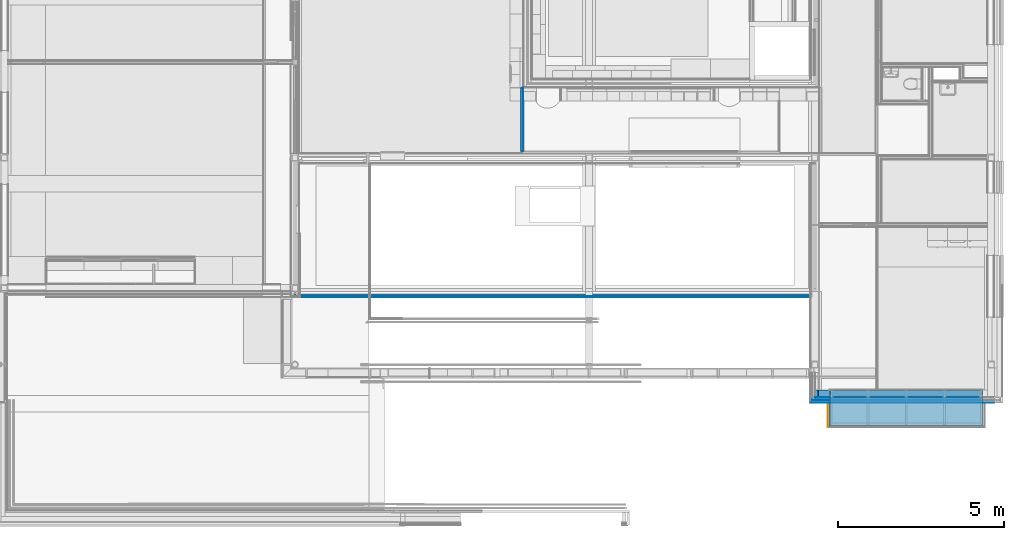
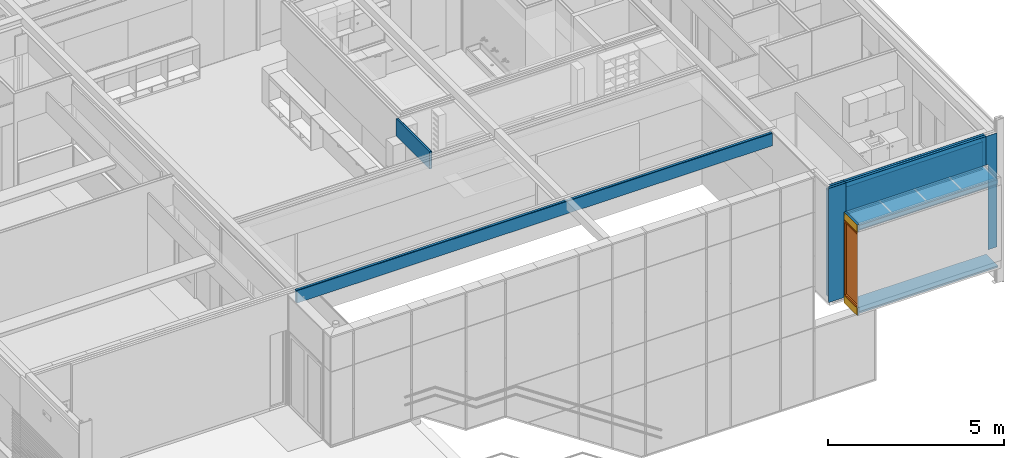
# One storey, part 63 of 137: 26 building element parts, 1 covering, 1 proxy, 2 openings, 9 elements without a shape of their own.
"""IFC2X3 building model written with IfcOpenShell, lengths in millimetres."""

from ifc_helpers import new_model, entity, si_unit, converted_unit, derived_unit, money_unit, direction, frame, origin_with_axes, place, context, subcontext, project, spatial, open_shell, faceted_brep, surface_model, material, type_object, element, fill, aggregate, save


model = new_model("IFC2X3")

# Units and contexts
model_context = context("Model", 3, precision=0.01, world=origin_with_axes(), true_north=direction((0.0, 1.0)))
body_context = subcontext(model_context, "Body", "Model", "MODEL_VIEW")
ifc_project = project(units=[si_unit("LENGTHUNIT", "METRE", prefix="MILLI"), si_unit("AREAUNIT", "SQUARE_METRE"), si_unit("VOLUMEUNIT", "CUBIC_METRE"), converted_unit("PLANEANGLEUNIT", "DEGREE", entity("IfcPlaneAngleMeasure", 0.0174532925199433), si_unit("PLANEANGLEUNIT", "RADIAN"), dimensions=[0, 0, 0, 0, 0, 0, 0]), money_unit("EUR"), converted_unit("TIMEUNIT", "Year", entity("IfcTimeMeasure", 31556926.0), si_unit("TIMEUNIT", "SECOND"), dimensions=[0, 0, 1, 0, 0, 0, 0]), si_unit("MASSUNIT", "GRAM", prefix="KILO"), si_unit("THERMODYNAMICTEMPERATUREUNIT", "DEGREE_CELSIUS"), si_unit("LUMINOUSINTENSITYUNIT", "LUMEN"), si_unit("ENERGYUNIT", "JOULE", prefix="MEGA"), derived_unit("THERMALCONDUCTANCEUNIT", [(si_unit("POWERUNIT", "WATT"), 1), (si_unit("LENGTHUNIT", "METRE"), -1), (si_unit("THERMODYNAMICTEMPERATUREUNIT", "KELVIN"), -1)]), derived_unit("SPECIFICHEATCAPACITYUNIT", [(si_unit("ENERGYUNIT", "JOULE"), 1), (si_unit("MASSUNIT", "GRAM", prefix="KILO"), -1), (si_unit("THERMODYNAMICTEMPERATUREUNIT", "KELVIN"), -1)]), derived_unit("MASSDENSITYUNIT", [(si_unit("MASSUNIT", "GRAM", prefix="KILO"), 1), (si_unit("VOLUMEUNIT", "CUBIC_METRE"), -1)])], contexts=[model_context])

# Site, building, storey
site_placement = place(None, origin_with_axes())
site = spatial("IfcSite", under=ifc_project, at=site_placement, Name="Site", CompositionType="ELEMENT")
building_placement = place(site_placement, origin_with_axes())
building = spatial("IfcBuilding", under=site, at=building_placement, Name="Naam gebouw", CompositionType="ELEMENT")
storey_placement = place(building_placement, frame((0.0, 0.0, 3960.0), z_axis=(0.0, 0.0, 1.0), x_axis=(1.0, 0.0, 0.0)))
storey = spatial("IfcBuildingStorey", under=building, at=storey_placement, Name="1e verdieping", CompositionType="ELEMENT", Elevation=3960.0)

# Wall, opening, covering, proxy
wall_type_1 = type_object("IfcWallType", Name="21 Zetwerk op Isolatie 63", PredefinedType="NOTDEFINED")
wall_1_placement = place(storey_placement, frame((24949.99903943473, 3600.0, -283.0000000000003), z_axis=(0.0, 0.0, 1.0), x_axis=(1.514304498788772e-09, -1.0, 0.0)))
wall_1 = element("IfcWall", 1, at=wall_1_placement, inside=storey, type_object=wall_type_1, Name="21_Wand-x")
opening_1_placement = place(wall_1_placement, frame((517.9999998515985, 0.0, 273.0000000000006), z_axis=(0.0, 0.0, 1.0), x_axis=(1.0, 0.0, 0.0)))
opening_1 = element("IfcOpeningElement", 2, at=opening_1_placement, cuts=wall_1, Name="_Merk BK1", context=body_context, shape_type="Brep", body=[
    faceted_brep([(331.0000001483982, 1.000000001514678, 0.0), (-331.9999999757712, 1.000001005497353, 0.0), (-331.9999999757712, 1.000001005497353, 2620.0), (331.0000001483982, 1.000000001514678, 2620.0), (395.0000000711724, -64.0000013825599, 0.0), (-332.000000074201, -64.00000028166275, 0.0), (395.0000000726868, -63.00000001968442, 0.0), (-332.000000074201, -64.00000028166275, 2620.0), (395.0000000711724, -64.0000013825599, 2620.0), (395.0000000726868, -63.00000001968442, 2620.0)], [[[0, 1, 2, 3]], [[4, 5, 1, 0, 6]], [[5, 7, 2, 1]], [[7, 8, 9, 3, 2]], [[0, 3, 9, 6]], [[5, 4, 8, 7]], [[8, 4, 6, 9]]]),
])
ifc_material_1 = material(Name="Metaal - Aluminium")
covering_placement = place(wall_1_placement, origin_with_axes())
covering = element("IfcCovering", 3, at=covering_placement, material=ifc_material_1, Name="Metaal - Aluminium", PredefinedType="NOTDEFINED", context=body_context, shape_type="Brep", body=[
    faceted_brep([(185.9999997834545, -60.00000028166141, 273.0000000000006), (912.9999999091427, -60.00000138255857, 273.0000000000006), (912.9999999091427, -60.00000138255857, 0.0), (167.9999999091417, -60.00000025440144, 0.0), (167.9999999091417, -60.00000025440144, 3153.0), (912.9999999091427, -60.00000138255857, 3153.000000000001), (912.9999999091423, -60.00000138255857, 2893.000000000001), (185.9999997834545, -60.00000028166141, 2893.000000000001), (185.9999997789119, -63.00000028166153, 273.0000000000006), (912.9999999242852, -63.00000138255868, 273.0000000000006), (912.9999999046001, -63.00000138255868, 0.0), (167.9999999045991, -63.00000025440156, 0.0), (167.9999999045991, -63.00000025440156, 3153.0), (912.9999999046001, -63.00000138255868, 3153.000000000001), (912.9999999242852, -63.00000138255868, 2893.000000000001), (185.9999997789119, -63.00000028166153, 2893.000000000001)], [[[0, 1, 2, 3, 4, 5, 6, 7]], [[0, 8, 9, 1]], [[1, 9, 10, 2]], [[10, 11, 3, 2]], [[11, 12, 4, 3]], [[5, 4, 12, 13]], [[14, 6, 5, 13]], [[14, 15, 7, 6]], [[0, 7, 15, 8]], [[15, 14, 13, 12, 11, 10, 9, 8]]]),
])
building_element_proxy_type_1 = type_object("IfcBuildingElementProxyType", Name="R1 26", PredefinedType="NOTDEFINED")
proxy_1_placement = place(opening_1_placement, frame((332.0000000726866, 0.0, 0.0), z_axis=(0.0, 0.0, 1.0), x_axis=(-1.0, 0.0, 0.0)))
proxy_1 = element("IfcBuildingElementProxy", 4, at=proxy_1_placement, inside=storey, type_object=building_element_proxy_type_1, Name="_Merk BK1", context=body_context, shape_type="SurfaceModel", body=[
    faceted_brep([(610.0000000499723, 3.634355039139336e-07, 54.00000000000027), (610.0000001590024, 72.00000036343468, 54.00000000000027), (664.0000001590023, 72.00000028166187, 54.00000000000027), (664.0000000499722, 2.816626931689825e-07, 54.00000000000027), (610.0000000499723, 3.634355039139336e-07, 2566.0), (610.0000001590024, 72.00000036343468, 2566.0), (664.0000001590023, 72.00000028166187, 2566.0), (664.0000000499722, 2.816626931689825e-07, 2566.0)], [[[0, 1, 2, 3]], [[4, 5, 1, 0]], [[1, 5, 6, 2]], [[3, 2, 6, 7]], [[0, 3, 7, 4]], [[7, 6, 5, 4]]]),
    faceted_brep([(-71.99999998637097, 72.00000139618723, 0.0), (-9.540102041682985e-08, 1.287158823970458e-06, 0.0), (-9.540102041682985e-08, 1.287158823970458e-06, 54.00000000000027), (-71.99999998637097, 72.00000139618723, 54.00000000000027), (664.0000001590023, 72.00000028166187, 0.0), (664.0000000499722, 2.816626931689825e-07, 0.0), (610.0000000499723, 3.634355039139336e-07, 54.00000000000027), (664.0000000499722, 2.816626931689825e-07, 54.00000000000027), (610.0000001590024, 72.00000036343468, 54.00000000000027), (664.0000001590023, 72.00000028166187, 54.00000000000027)], [[[0, 1, 2, 3]], [[1, 0, 4, 5]], [[6, 2, 1, 5, 7]], [[2, 6, 8, 3]], [[0, 3, 8, 9, 4]], [[7, 5, 4, 9]], [[6, 7, 9, 8]]]),
    faceted_brep([(610.0000000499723, 3.634355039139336e-07, 2566.0), (-9.540102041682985e-08, 1.287158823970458e-06, 2566.0), (-71.99999998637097, 72.00000139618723, 2566.0), (610.0000001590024, 72.00000036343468, 2566.0), (664.0000000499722, 2.816626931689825e-07, 2566.0), (664.0000000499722, 2.816626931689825e-07, 2620.0), (-9.540102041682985e-08, 1.287158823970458e-06, 2620.0), (-71.99999998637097, 72.00000139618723, 2620.0), (664.0000001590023, 72.00000028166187, 2620.0), (664.0000001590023, 72.00000028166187, 2566.0)], [[[0, 1, 2, 3]], [[1, 0, 4, 5, 6]], [[7, 2, 1, 6]], [[2, 7, 8, 9, 3]], [[4, 0, 3, 9]], [[5, 4, 9, 8]], [[7, 6, 5, 8]]]),
    surface_model("IfcShellBasedSurfaceModel", [(-9.54014645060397e-08, 1.287158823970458e-06, 54.00000000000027), (610.0000000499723, 3.634355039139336e-07, 54.00000000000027), (610.0000000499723, 3.634355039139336e-07, 2566.0), (-9.540102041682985e-08, 1.287158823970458e-06, 2566.0)], [open_shell([[[0, 1, 2, 3]]])]),
    surface_model("IfcShellBasedSurfaceModel", [(-20.00000006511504, 20.00000131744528, 2566.0), (610.0000000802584, 20.00000036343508, 2566.0), (610.0000000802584, 20.00000036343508, 54.00000000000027), (-20.00000006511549, 20.00000131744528, 54.00000000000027)], [open_shell([[[0, 1, 2, 3]]])]),
])
fill(opening_1, proxy_1)

# Wall, building element parts
wall_type_2 = type_object("IfcWallType", Name="21 STO Buitengevelisolatie 160 390", PredefinedType="NOTDEFINED")
wall_2_placement = place(storey_placement, frame((29899.99999999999, 3599.999999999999, -100.0000000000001), z_axis=(0.0, 0.0, 1.0), x_axis=(-0.9999999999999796, 2.024838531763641e-07, 0.0)))
wall_2 = element("IfcWall", 5, at=wall_2_placement, inside=storey, type_object=wall_type_2, Name="21_Wand-x")
ifc_material_2 = material(Name="STO pleisterlaag")
building_element_part_1_placement = place(wall_2_placement, origin_with_axes())
building_element_part_1 = element("IfcBuildingElementPart", 6, at=building_element_part_1_placement, material=ifc_material_2, Name="STO pleisterlaag", context=body_context, shape_type="Brep", body=[
    faceted_brep([(-3.563715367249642e-05, 175.9999999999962, 3960.0), (-3.502970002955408e-05, 172.9999967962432, 3960.0), (350.0000000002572, 173.0000000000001, 3960.0), (350.0000000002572, 176.0000000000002, 3960.0), (-3.502970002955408e-05, 172.9999967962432, 0.0), (-3.563715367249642e-05, 175.9999999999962, 0.0), (286.999789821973, 172.9999999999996, 0.0), (286.9997898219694, 172.9999999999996, 2970.0), (349.9997898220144, 172.9999999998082, 2970.0), (349.9997861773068, 175.9999999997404, 2970.0), (286.9997861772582, 176.0000000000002, 2970.0), (286.9997861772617, 175.9999999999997, 0.0)], [[[0, 1, 2, 3]], [[4, 1, 0, 5]], [[1, 4, 6, 7, 8, 2]], [[2, 8, 9, 3]], [[5, 0, 3, 9, 10, 11]], [[4, 5, 11, 6]], [[10, 7, 6, 11]], [[8, 7, 10, 9]]]),
])
ifc_material_3 = material(Name="STO weefsellaag")
building_element_part_2_placement = place(wall_2_placement, origin_with_axes())
building_element_part_2 = element("IfcBuildingElementPart", 7, at=building_element_part_2_placement, material=ifc_material_3, Name="STO weefsellaag", context=body_context, shape_type="Brep", body=[
    faceted_brep([(-3.502970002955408e-05, 172.9999985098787, 3960.000000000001), (-3.40172832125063e-05, 167.9999997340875, 3960.0), (350.0000000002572, 168.0000000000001, 3960.0), (350.0000000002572, 173.0000000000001, 3960.0), (-3.40172832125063e-05, 167.9999997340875, 0.0), (-3.502970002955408e-05, 172.9999985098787, 0.0), (286.9997958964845, 168.0000000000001, 0.0), (286.9997958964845, 168.0000000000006, 2970.0), (349.9997958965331, 167.9999999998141, 2970.0), (349.9997898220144, 172.9999999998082, 2970.0), (286.9997898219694, 172.9999999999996, 2970.0), (286.999789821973, 172.9999999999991, 0.0)], [[[0, 1, 2, 3]], [[4, 1, 0, 5]], [[1, 4, 6, 7, 8, 2]], [[2, 8, 9, 3]], [[5, 0, 3, 9, 10, 11]], [[4, 5, 11, 6]], [[10, 7, 6, 11]], [[8, 7, 10, 9]]]),
])
aggregate(wall_2, [building_element_part_1, building_element_part_2])

# Building element part
ifc_material_4 = material(Name="Isolatie - Kunststof hard")
building_element_part_3_placement = place(wall_1_placement, origin_with_axes())
building_element_part_3 = element("IfcBuildingElementPart", 8, at=building_element_part_3_placement, material=ifc_material_4, Name="Isolatie - Kunststof hard", context=body_context, shape_type="Brep", body=[
    faceted_brep([(185.9999998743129, 1.908809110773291e-06, 273.0000000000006), (849.999999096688, 9.033129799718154e-07, 273.0000000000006), (910.000000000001, -1.378019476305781e-06, 273.0000000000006), (910.000000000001, -1.378019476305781e-06, 0.0), (168.0000000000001, -2.544027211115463e-07, 0.0), (168.0000000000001, -2.544027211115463e-07, 3153.0), (910.000000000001, -1.378019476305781e-06, 3153.000000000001), (910.000000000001, -1.378019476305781e-06, 2893.000000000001), (849.999999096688, 9.033129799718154e-07, 2893.000000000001), (185.9999998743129, 1.908809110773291e-06, 2893.000000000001), (185.9999997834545, -60.00000028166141, 273.0000000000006), (909.999999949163, -60.00000133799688, 273.0000000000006), (909.9999999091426, -60.0000013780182, 0.0), (167.9999999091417, -60.00000025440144, 0.0), (167.9999999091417, -60.00000025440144, 3153.0), (909.9999999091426, -60.0000013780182, 3153.000000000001), (909.999999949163, -60.00000133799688, 2893.000000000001), (185.9999997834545, -60.00000028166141, 2893.000000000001)], [[[0, 1, 2, 3, 4, 5, 6, 7, 8, 9]], [[1, 0, 10, 11, 2]], [[2, 11, 12, 3]], [[12, 13, 4, 3]], [[13, 14, 5, 4]], [[6, 5, 14, 15]], [[16, 7, 6, 15]], [[16, 17, 9, 8, 7]], [[0, 9, 17, 10]], [[17, 16, 15, 14, 13, 12, 11, 10]]]),
])

aggregate(wall_1, [building_element_part_3, covering])

# Wall, building element parts
wall_3_placement = place(storey_placement, frame((24949.99903943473, 3600.0, -100.0000000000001), z_axis=(0.0, 0.0, 1.0), x_axis=(-1.0, 0.0, 0.0)))
wall_3 = element("IfcWall", 9, at=wall_3_placement, inside=storey, type_object=wall_type_2, Name="21_Wand-x")
building_element_part_4_placement = place(wall_3_placement, origin_with_axes())
building_element_part_4 = element("IfcBuildingElementPart", 10, at=building_element_part_4_placement, material=ifc_material_2, Name="STO pleisterlaag", context=body_context, shape_type="Brep", body=[
    faceted_brep([(0.0, 176.0000000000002, 2970.0), (62.99999999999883, 176.0000000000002, 2970.0), (62.99999999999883, 173.0000000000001, 2970.0), (0.0, 173.0000000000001, 2970.0), (0.0, 176.0000000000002, 3960.0), (582.9999994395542, 176.0000053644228, 3960.0), (582.9999994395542, 176.0000000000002, 0.0), (62.99999999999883, 176.0000000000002, 0.0), (62.99999999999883, 173.0000000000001, 0.0), (582.9999994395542, 173.0000000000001, 0.0), (582.9999994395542, 173.0000000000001, 3960.0), (0.0, 173.0000000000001, 3960.0)], [[[0, 1, 2, 3]], [[1, 0, 4, 5, 6, 7]], [[8, 2, 1, 7]], [[2, 8, 9, 10, 11, 3]], [[0, 3, 11, 4]], [[10, 5, 4, 11]], [[5, 10, 9, 6]], [[8, 7, 6, 9]]]),
])
ifc_material_5 = material(Name="Isolatie - STO EPS")
building_element_part_5_placement = place(wall_3_placement, origin_with_axes())
building_element_part_5 = element("IfcBuildingElementPart", 11, at=building_element_part_5_placement, material=ifc_material_5, Name="Isolatie - STO EPS", context=body_context, shape_type="Brep", body=[
    faceted_brep([(537.9999994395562, 87.99999959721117, 3960.0), (0.0, 87.99999508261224, 3960.0), (0.0, 88.00000000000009, 0.0), (537.9999994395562, 88.00000000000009, 0.0), (537.9999994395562, 168.0000000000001, 3960.0), (0.0, 168.0000000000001, 3960.0), (0.0, 168.0000000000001, 0.0), (537.9999994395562, 168.0000000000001, 0.0)], [[[0, 1, 2, 3]], [[0, 4, 5, 1]], [[2, 1, 5, 6]], [[7, 3, 2, 6]], [[4, 0, 3, 7]], [[4, 7, 6, 5]]]),
])
building_element_part_6_placement = place(wall_3_placement, origin_with_axes())
building_element_part_6 = element("IfcBuildingElementPart", 12, at=building_element_part_6_placement, material=ifc_material_3, Name="STO weefsellaag", context=body_context, shape_type="Brep", body=[
    faceted_brep([(0.0, 173.0000000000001, 2970.0), (62.99999999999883, 173.0000000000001, 2970.0), (62.99999999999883, 168.0000000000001, 2970.0), (0.0, 168.0000000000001, 2970.0), (0.0, 173.0000000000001, 3960.0), (577.9999994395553, 173.0000000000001, 3960.0), (577.9999994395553, 173.0000000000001, 0.0), (62.99999999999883, 173.0000000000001, 0.0), (62.99999999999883, 168.0000000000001, 0.0), (577.9999994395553, 168.0000000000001, 0.0), (577.9999994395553, 168.0000000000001, 3960.0), (0.0, 168.0000000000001, 3960.0)], [[[0, 1, 2, 3]], [[1, 0, 4, 5, 6, 7]], [[8, 2, 1, 7]], [[2, 8, 9, 10, 11, 3]], [[0, 3, 11, 4]], [[10, 5, 4, 11]], [[5, 10, 9, 6]], [[8, 7, 6, 9]]]),
])
ifc_material_6 = material(Name="STO lijmlaag")
building_element_part_7_placement = place(wall_3_placement, origin_with_axes())
building_element_part_7 = element("IfcBuildingElementPart", 13, at=building_element_part_7_placement, material=ifc_material_6, Name="STO lijmlaag", context=body_context, shape_type="Brep", body=[
    faceted_brep([(533.9999994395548, 84.00000043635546, 3960.0), (0.0, 84.00000491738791, 3960.0), (0.0, 84.00000000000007, 0.0), (533.9999994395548, 84.00000000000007, 0.0), (533.9999994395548, 87.99999956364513, 3960.0), (0.0, 87.99999508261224, 3960.0), (0.0, 88.00000000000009, 0.0), (533.9999994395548, 88.00000000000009, 0.0)], [[[0, 1, 2, 3]], [[0, 4, 5, 1]], [[2, 1, 5, 6]], [[7, 3, 2, 6]], [[4, 0, 3, 7]], [[4, 7, 6, 5]]]),
])
building_element_part_8_placement = place(wall_3_placement, origin_with_axes())
building_element_part_8 = element("IfcBuildingElementPart", 14, at=building_element_part_8_placement, material=ifc_material_5, Name="Isolatie - STO EPS", context=body_context, shape_type="Brep", body=[
    faceted_brep([(453.9999994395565, 3.99999889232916, 3960.0), (0.0, 3.999995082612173, 3960.0), (0.0, 4.000000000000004, 0.0), (453.9999994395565, 3.999999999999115, 0.0), (453.9999994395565, 84.00000110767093, 3960.0), (0.0, 84.00000491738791, 3960.0), (0.0, 84.00000000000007, 0.0), (453.9999994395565, 84.00000000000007, 0.0)], [[[0, 1, 2, 3]], [[0, 4, 5, 1]], [[2, 1, 5, 6]], [[7, 3, 2, 6]], [[4, 0, 3, 7]], [[4, 7, 6, 5]]]),
])
building_element_part_9_placement = place(wall_3_placement, origin_with_axes())
building_element_part_9 = element("IfcBuildingElementPart", 15, at=building_element_part_9_placement, material=ifc_material_6, Name="STO lijmlaag", context=body_context, shape_type="Brep", body=[
    faceted_brep([(0.0, 4.917387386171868e-06, 3960.0), (0.0, 0.0, 0.0), (449.9999994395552, 0.0, 0.0), (449.9999994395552, 1.141236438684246e-06, 3960.0), (0.0, 3.999995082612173, 3960.0), (0.0, 3.999999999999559, 0.0), (449.9999994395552, 3.999999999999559, 0.0), (449.9999994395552, 3.999998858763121, 3960.0)], [[[0, 1, 2, 3]], [[0, 4, 5, 1]], [[2, 1, 5, 6]], [[3, 2, 6, 7]], [[7, 4, 0, 3]], [[6, 5, 4, 7]]]),
])
ifc_material_7 = material(Name="Steen - Kalkzandsteen C")
building_element_part_10_placement = place(wall_3_placement, origin_with_axes())
building_element_part_10 = element("IfcBuildingElementPart", 16, at=building_element_part_10_placement, material=ifc_material_7, Name="Steen - Kalkzandsteen C", context=body_context, shape_type="Brep", body=[
    faceted_brep([(437.9999994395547, -214.0000000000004, 0.0), (437.9999994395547, -214.0000000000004, 3680.000001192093), (251.0000077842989, -214.0000000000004, 3680.000001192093), (251.0000077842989, -214.0000000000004, 3694.999999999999), (348.9999994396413, -214.0000000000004, 3694.999999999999), (348.9999994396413, -214.0000000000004, 3700.0), (0.0, -214.0000000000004, 3700.0), (0.0, -214.0000000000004, 2970.0), (0.0, -214.0000000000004, 0.0), (437.9999994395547, 0.0, 0.0), (437.9999994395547, 0.0, 3680.000001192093), (251.0000077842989, 0.0, 3680.000001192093), (251.0000077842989, 0.0, 3694.999999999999), (348.9999994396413, 0.0, 3694.999999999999), (348.9999994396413, 0.0, 3700.0), (0.0, 0.0, 3700.0), (0.0, 0.0, 0.0)], [[[0, 1, 2, 3, 4, 5, 6, 7, 8]], [[9, 10, 1, 0]], [[11, 2, 1, 10]], [[12, 3, 2, 11]], [[13, 4, 3, 12]], [[13, 14, 5, 4]], [[6, 5, 14, 15]], [[8, 7, 6, 15, 16]], [[0, 8, 16, 9]], [[12, 11, 10, 9, 16, 15, 14, 13]]]),
    faceted_brep([(355.0000089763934, 0.0, 3700.0), (355.0000089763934, -214.0000000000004, 3700.0), (437.9999994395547, -214.0000000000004, 3700.0), (437.9999994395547, 0.0, 3700.0), (355.0000089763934, -214.0000000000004, 3694.999999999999), (355.0000089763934, 0.0, 3694.999999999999), (437.9999994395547, -214.0000000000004, 3694.999999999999), (437.9999994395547, 0.0, 3694.999999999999)], [[[0, 1, 2, 3]], [[4, 1, 0, 5]], [[4, 6, 2, 1]], [[6, 7, 3, 2]], [[5, 0, 3, 7]], [[6, 4, 5, 7]]]),
])
aggregate(wall_3, [building_element_part_4, building_element_part_5, building_element_part_6, building_element_part_7, building_element_part_8, building_element_part_9, building_element_part_10])

# Wall, opening, building element parts
wall_4_placement = place(storey_placement, frame((29549.99996436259, 3599.999999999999, 2870.0), z_axis=(0.0, 0.0, 1.0), x_axis=(-1.0, 0.0, 0.0)))
wall_4 = element("IfcWall", 17, at=wall_4_placement, inside=storey, type_object=wall_type_2, Name="21_Wand-x")
opening_2_placement = place(wall_4_placement, frame((2320.00035577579, 0.0, -240.0000000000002), z_axis=(0.0, 0.0, 1.0), x_axis=(1.0, 0.0, 0.0)))
element("IfcOpeningElement", 18, at=opening_2_placement, cuts=wall_4, Name="_-", context=body_context, shape_type="Brep", body=[
    faceted_brep([(1936.000569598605, 177.0000000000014, 0.0), (-1936.000569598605, 177.0000000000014, 0.0), (-1936.000569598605, 177.0000000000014, 124.0000000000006), (1936.000569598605, 177.0000000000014, 124.0000000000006), (1936.000569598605, 0.0, 0.0), (-1936.000569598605, 0.0, 0.0), (-1936.000569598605, 0.0, 124.0000000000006), (1936.000569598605, 0.0, 124.0000000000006)], [[[0, 1, 2, 3]], [[4, 5, 1, 0]], [[5, 6, 2, 1]], [[6, 7, 3, 2]], [[7, 4, 0, 3]], [[6, 5, 4, 7]]]),
])
building_element_part_11_placement = place(wall_4_placement, origin_with_axes())
building_element_part_11 = element("IfcBuildingElementPart", 19, at=building_element_part_11_placement, material=ifc_material_2, Name="STO pleisterlaag", context=body_context, shape_type="Brep", body=[
    faceted_brep([(0.0, 173.0000000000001, 990.0000000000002), (4600.000924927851, 173.0000000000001, 990.0000000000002), (4600.000924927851, 176.0000000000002, 990.0000000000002), (0.0, 176.0000000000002, 990.0000000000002), (0.0, 173.0000000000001, 0.0), (4600.000924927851, 173.0000000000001, 0.0), (4600.000924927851, 176.0000000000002, 0.0), (0.0, 176.0000000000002, 0.0)], [[[0, 1, 2, 3]], [[4, 5, 1, 0]], [[2, 1, 5, 6]], [[3, 2, 6, 7]], [[4, 0, 3, 7]], [[7, 6, 5, 4]]]),
])
building_element_part_12_placement = place(wall_4_placement, origin_with_axes())
building_element_part_12 = element("IfcBuildingElementPart", 20, at=building_element_part_12_placement, material=ifc_material_3, Name="STO weefsellaag", context=body_context, shape_type="Brep", body=[
    faceted_brep([(0.0, 168.0000000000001, 990.0000000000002), (4600.000924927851, 168.0000000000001, 990.0000000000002), (4600.000924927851, 173.0000000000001, 990.0000000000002), (0.0, 173.0000000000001, 990.0000000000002), (0.0, 168.0000000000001, 0.0), (4600.000924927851, 168.0000000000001, 0.0), (4600.000924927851, 173.0000000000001, 0.0), (0.0, 173.0000000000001, 0.0)], [[[0, 1, 2, 3]], [[4, 5, 1, 0]], [[2, 1, 5, 6]], [[3, 2, 6, 7]], [[4, 0, 3, 7]], [[7, 6, 5, 4]]]),
])
building_element_part_13_placement = place(wall_4_placement, origin_with_axes())
building_element_part_13 = element("IfcBuildingElementPart", 21, at=building_element_part_13_placement, material=ifc_material_5, Name="Isolatie - STO EPS", context=body_context, shape_type="Brep", body=[
    faceted_brep([(0.0, 88.00000000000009, 990.0000000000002), (4600.000924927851, 88.00000000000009, 990.0000000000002), (4600.000924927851, 168.0000000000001, 990.0000000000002), (0.0, 168.0000000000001, 990.0000000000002), (0.0, 88.00000000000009, 0.0), (4600.000924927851, 88.00000000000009, 0.0), (4600.000924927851, 168.0000000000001, 0.0), (0.0, 168.0000000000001, 0.0)], [[[0, 1, 2, 3]], [[4, 5, 1, 0]], [[2, 1, 5, 6]], [[3, 2, 6, 7]], [[4, 0, 3, 7]], [[7, 6, 5, 4]]]),
])
building_element_part_14_placement = place(wall_4_placement, origin_with_axes())
building_element_part_14 = element("IfcBuildingElementPart", 22, at=building_element_part_14_placement, material=ifc_material_6, Name="STO lijmlaag", context=body_context, shape_type="Brep", body=[
    faceted_brep([(0.0, 84.00000000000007, 990.0000000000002), (4600.000924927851, 84.00000000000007, 990.0000000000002), (4600.000924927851, 88.00000000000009, 990.0000000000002), (0.0, 88.00000000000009, 990.0000000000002), (0.0, 84.00000000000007, 0.0), (4600.000924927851, 84.00000000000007, 0.0), (4600.000924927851, 88.00000000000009, 0.0), (0.0, 88.00000000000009, 0.0)], [[[0, 1, 2, 3]], [[4, 5, 1, 0]], [[2, 1, 5, 6]], [[3, 2, 6, 7]], [[4, 0, 3, 7]], [[7, 6, 5, 4]]]),
])
building_element_part_15_placement = place(wall_4_placement, origin_with_axes())
building_element_part_15 = element("IfcBuildingElementPart", 23, at=building_element_part_15_placement, material=ifc_material_5, Name="Isolatie - STO EPS", context=body_context, shape_type="Brep", body=[
    faceted_brep([(0.0, 4.000000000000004, 990.0000000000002), (4600.000924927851, 4.000000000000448, 990.0000000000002), (4600.000924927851, 84.00000000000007, 990.0000000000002), (0.0, 84.00000000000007, 990.0000000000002), (0.0, 4.000000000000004, 0.0), (4600.000924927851, 4.000000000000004, 0.0), (4600.000924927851, 84.00000000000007, 0.0), (0.0, 84.00000000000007, 0.0)], [[[0, 1, 2, 3]], [[4, 5, 1, 0]], [[2, 1, 5, 6]], [[3, 2, 6, 7]], [[4, 0, 3, 7]], [[7, 6, 5, 4]]]),
])
building_element_part_16_placement = place(wall_4_placement, origin_with_axes())
building_element_part_16 = element("IfcBuildingElementPart", 24, at=building_element_part_16_placement, material=ifc_material_6, Name="STO lijmlaag", context=body_context, shape_type="Brep", body=[
    faceted_brep([(0.0, 0.0, 990.0000000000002), (4600.000924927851, 0.0, 990.0000000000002), (4600.000924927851, 4.000000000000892, 990.0000000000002), (0.0, 4.000000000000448, 990.0000000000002), (0.0, 0.0, 0.0), (4600.000924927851, 0.0, 0.0), (4600.000924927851, 3.999999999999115, 0.0), (0.0, 4.000000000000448, 0.0)], [[[0, 1, 2, 3]], [[4, 5, 1, 0]], [[2, 1, 5, 6]], [[3, 2, 6, 7]], [[4, 0, 3, 7]], [[7, 6, 5, 4]]]),
])
aggregate(wall_4, [building_element_part_11, building_element_part_12, building_element_part_13, building_element_part_14, building_element_part_15, building_element_part_16])

# Slab, building element parts
slab_type_1 = type_object("IfcSlabType", Name="27 HSB dak 192", PredefinedType="NOTDEFINED")
slab_1_placement = place(storey_placement, frame((24949.99903911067, 3599.999997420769, 2600.0), z_axis=(0.0, 0.0, 1.0), x_axis=(1.0, 0.0, 0.0)))
slab_1 = element("IfcSlab", 25, at=slab_1_placement, inside=storey, type_object=slab_type_1, Name="_Vloer-x", PredefinedType="NOTDEFINED")
building_element_part_17_placement = place(slab_1_placement, origin_with_axes())
building_element_part_17 = element("IfcBuildingElementPart", 26, at=building_element_part_17_placement, material=ifc_material_4, Name="Isolatie - Kunststof hard", context=body_context, shape_type="Brep", body=[
    faceted_brep([(0.0, 0.0, 34.0000000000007), (0.0, -849.9999974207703, 34.0000000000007), (0.0, -849.9999974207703, 174.0000000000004), (0.0, 0.0, 174.0000000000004), (4600.000744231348, 0.0, 34.0000000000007), (4600.000744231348, -849.9999974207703, 34.0000000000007), (4600.000744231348, -849.9999974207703, 174.0000000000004), (4600.000744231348, 0.0, 174.0000000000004)], [[[0, 1, 2, 3]], [[1, 0, 4, 5]], [[1, 5, 6, 2]], [[7, 3, 2, 6]], [[4, 0, 3, 7]], [[5, 4, 7, 6]]]),
])
ifc_material_8 = material(Name="Gipsplaat")
building_element_part_18_placement = place(slab_1_placement, origin_with_axes())
building_element_part_18 = element("IfcBuildingElementPart", 27, at=building_element_part_18_placement, material=ifc_material_8, Name="Gipsplaat", context=body_context, shape_type="Brep", body=[
    faceted_brep([(0.0, 0.0, 12.00000000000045), (0.0, 0.0, 0.0), (0.0, -849.9999974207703, 0.0), (0.0, -849.9999974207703, 12.00000000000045), (4600.000744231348, 0.0, 12.00000000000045), (4600.000744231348, 0.0, 0.0), (4600.000744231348, -849.9999974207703, 0.0), (4600.000744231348, -849.9999974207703, 12.00000000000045)], [[[0, 1, 2, 3]], [[4, 5, 1, 0]], [[2, 1, 5, 6]], [[3, 2, 6, 7]], [[4, 0, 3, 7]], [[7, 6, 5, 4]]]),
])
aggregate(slab_1, [building_element_part_17, building_element_part_18])

# Proxy, building element parts
building_element_proxy_type_2 = type_object("IfcBuildingElementProxyType", Name="22 Metal stud 100 voorzetwand 100", PredefinedType="NOTDEFINED")
proxy_2_placement = place(storey_placement, frame((8745.013310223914, 6604.999999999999, 3425.000000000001), z_axis=(0.0, 0.0, 1.0), x_axis=(1.0, 0.0, 0.0)))
proxy_2 = element("IfcBuildingElementProxy", 28, at=proxy_2_placement, inside=storey, type_object=building_element_proxy_type_2, Name="_Wand-x")
ifc_material_9 = material(Name="ALG - LICHTE SCHEIDINGSWAND")
building_element_part_19_placement = place(proxy_2_placement, origin_with_axes())
building_element_part_19 = element("IfcBuildingElementPart", 29, at=building_element_part_19_placement, material=ifc_material_9, Name="ALG - LICHTE SCHEIDINGSWAND", context=body_context, shape_type="Brep", body=[
    faceted_brep([(15619.98572977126, 100.0000000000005, 0.0), (15619.98572977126, 25.00000000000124, 0.0), (0.0, 25.00000000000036, 0.0), (0.0, 99.99999999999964, 0.0), (15619.98572977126, 100.0000000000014, 430.0000484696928), (15619.98572977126, 25.00000000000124, 430.0000484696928), (0.0, 25.00000000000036, 430.0000484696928), (0.0, 99.99999999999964, 430.0000484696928)], [[[0, 1, 2, 3]], [[0, 4, 5, 1]], [[1, 5, 6, 2]], [[3, 2, 6, 7]], [[4, 0, 3, 7]], [[5, 4, 7, 6]]]),
])
building_element_part_20_placement = place(proxy_2_placement, origin_with_axes())
building_element_part_20 = element("IfcBuildingElementPart", 30, at=building_element_part_20_placement, material=ifc_material_8, Name="Gipsplaat", context=body_context, shape_type="Brep", body=[
    faceted_brep([(15619.98572977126, 25.00000000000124, 0.0), (15619.98572977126, 12.50000000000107, 0.0), (0.0, 12.50000000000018, 0.0), (0.0, 25.00000000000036, 0.0), (15619.98572977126, 25.00000000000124, 430.0000484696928), (15619.98572977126, 12.50000000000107, 430.0000484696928), (0.0, 12.50000000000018, 430.0000484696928), (0.0, 25.00000000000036, 430.0000484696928)], [[[0, 1, 2, 3]], [[0, 4, 5, 1]], [[1, 5, 6, 2]], [[3, 2, 6, 7]], [[4, 0, 3, 7]], [[5, 4, 7, 6]]]),
])
building_element_part_21_placement = place(proxy_2_placement, origin_with_axes())
building_element_part_21 = element("IfcBuildingElementPart", 31, at=building_element_part_21_placement, material=ifc_material_8, Name="Gipsplaat", context=body_context, shape_type="Brep", body=[
    faceted_brep([(15619.98572977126, 12.50000000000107, 0.0), (15619.98572977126, 0.0, 0.0), (0.0, 0.0, 0.0), (0.0, 12.50000000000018, 0.0), (15619.98572977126, 12.50000000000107, 430.0000484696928), (15619.98572977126, 0.0, 430.0000484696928), (0.0, 0.0, 430.0000484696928), (0.0, 12.50000000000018, 430.0000484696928)], [[[0, 1, 2, 3]], [[0, 4, 5, 1]], [[1, 5, 6, 2]], [[3, 2, 6, 7]], [[4, 0, 3, 7]], [[5, 4, 7, 6]]]),
])
aggregate(proxy_2, [building_element_part_19, building_element_part_20, building_element_part_21])

building_element_proxy_type_3 = type_object("IfcBuildingElementProxyType", Name="22 Metal stud 72.5 plafond 73", PredefinedType="NOTDEFINED")
proxy_3_placement = place(storey_placement, frame((15714.9994538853, 12904.99781947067, 3000.0), z_axis=(0.0, 0.0, 1.0), x_axis=(0.0, -1.0, 0.0)))
proxy_3 = element("IfcBuildingElementProxy", 32, at=proxy_3_placement, inside=storey, type_object=building_element_proxy_type_3, Name="_Wand-x")
building_element_part_22_placement = place(proxy_3_placement, origin_with_axes())
building_element_part_22 = element("IfcBuildingElementPart", 33, at=building_element_part_22_placement, material=ifc_material_8, Name="Gipsplaat", context=body_context, shape_type="Brep", body=[
    faceted_brep([(1904.997708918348, -12.49999999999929, 600.0000000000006), (1904.997708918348, 0.0, 600.0000000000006), (0.0, 0.0, 600.0000000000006), (0.0, -12.49999999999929, 600.0000000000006), (1904.997708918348, -12.49999999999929, 0.0), (1904.997708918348, 0.0, 0.0), (0.0, 0.0, 0.0), (0.0, -12.49999999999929, 0.0)], [[[0, 1, 2, 3]], [[0, 4, 5, 1]], [[1, 5, 6, 2]], [[3, 2, 6, 7]], [[4, 0, 3, 7]], [[5, 4, 7, 6]]]),
])
building_element_part_23_placement = place(proxy_3_placement, origin_with_axes())
building_element_part_23 = element("IfcBuildingElementPart", 34, at=building_element_part_23_placement, material=ifc_material_9, Name="ALG - LICHTE SCHEIDINGSWAND", context=body_context, shape_type="Brep", body=[
    faceted_brep([(1904.997708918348, -72.49999999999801, 600.0000000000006), (1904.997708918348, -12.49999999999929, 600.0000000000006), (0.0, -12.49999999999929, 600.0000000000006), (0.0, -72.49999999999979, 600.0000000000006), (1904.997708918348, -72.49999999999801, 0.0), (1904.997708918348, -12.49999999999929, 0.0), (0.0, -12.49999999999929, 0.0), (0.0, -72.49999999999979, 0.0)], [[[0, 1, 2, 3]], [[0, 4, 5, 1]], [[1, 5, 6, 2]], [[3, 2, 6, 7]], [[4, 0, 3, 7]], [[5, 4, 7, 6]]]),
])
aggregate(proxy_3, [building_element_part_22, building_element_part_23])

# Beam, building element parts
beam_type = type_object("IfcBeamType", Name="31 HSB boven kozijnen 214 x 1000", PredefinedType="BEAM")
beam_placement = place(storey_placement, frame((24949.99903911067, 3813.999999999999, 2600.000000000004), z_axis=(0.0, 0.0, 1.0), x_axis=(1.540638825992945e-08, -0.9999999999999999, 0.0)))
beam = element("IfcBeam", 35, at=beam_placement, inside=storey, type_object=beam_type, Name="28_Balk-x", ObjectType="BEAM")
building_element_part_24_placement = place(beam_placement, origin_with_axes())
building_element_part_24 = element("IfcBuildingElementPart", 36, at=building_element_part_24_placement, material=ifc_material_8, Name="Gipsplaat", context=body_context, shape_type="Brep", body=[
    faceted_brep([(11.99999661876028, 4600.000744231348, 12.00000596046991), (11.99999661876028, 4600.000744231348, 0.0), (11.99999661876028, 0.0, 0.0), (11.99999661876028, 0.0, 12.00000596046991), (214.0000025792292, 4600.000744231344, 12.00000596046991), (214.0000025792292, 4600.000744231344, 0.0), (214.0000025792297, 0.0, 0.0), (214.0000025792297, 0.0, 12.00000596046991)], [[[0, 1, 2, 3]], [[0, 4, 5, 1]], [[1, 5, 6, 2]], [[3, 2, 6, 7]], [[4, 0, 3, 7]], [[5, 4, 7, 6]]]),
])
ifc_material_10 = material(Name="ALG - ISOLATIE")
building_element_part_25_placement = place(beam_placement, origin_with_axes())
building_element_part_25 = element("IfcBuildingElementPart", 37, at=building_element_part_25_placement, material=ifc_material_10, Name="ALG - ISOLATIE", context=body_context, shape_type="Brep", body=[
    faceted_brep([(195.9999999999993, 4600.000744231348, 49.99999999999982), (195.9999999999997, 4600.000744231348, 961.9999999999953), (195.9999999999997, 0.0, 961.9999999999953), (195.9999999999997, 0.0, 49.99999999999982), (11.99999999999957, 4600.000744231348, 49.99999999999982), (11.99999999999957, 4600.000744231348, 961.9999999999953), (12.00000000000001, 0.0, 961.9999999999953), (12.00000000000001, 0.0, 49.99999999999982)], [[[0, 1, 2, 3]], [[0, 4, 5, 1]], [[1, 5, 6, 2]], [[3, 2, 6, 7]], [[4, 0, 3, 7]], [[5, 4, 7, 6]]]),
])
aggregate(beam, [building_element_part_24, building_element_part_25])

# Slab, building element part
slab_type_2 = type_object("IfcSlabType", Name="23 Zetwerk op Isolatie 63", PredefinedType="NOTDEFINED")
slab_2_placement = place(storey_placement, frame((24886.99904081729, 3424.0, -220.0000000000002), z_axis=(0.0, 0.0, 1.0), x_axis=(1.0, 0.0, 0.0)))
slab_2 = element("IfcSlab", 38, at=slab_2_placement, inside=storey, type_object=slab_type_2, Name="_Vloer-x", PredefinedType="NOTDEFINED")
building_element_part_26_placement = place(slab_2_placement, origin_with_axes())
building_element_part_26 = element("IfcBuildingElementPart", 39, at=building_element_part_26_placement, material=ifc_material_4, Name="Isolatie - Kunststof hard", context=body_context, shape_type="Brep", body=[
    faceted_brep([(63.0000008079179, 0.0, -60.00000000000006), (63.0000008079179, 0.0, 0.0), (4663.001135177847, 0.0, 0.0), (4663.001135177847, 0.0, -60.00000000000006), (63.0000008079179, -673.9999994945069, 0.0), (63.0000008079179, -673.9999999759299, -60.00000000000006), (4663.001819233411, -674.0000000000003, 0.0), (4663.001819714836, -674.0000000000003, -60.00000000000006)], [[[0, 1, 2, 3]], [[4, 1, 0, 5]], [[1, 4, 6, 2]], [[2, 6, 7, 3]], [[5, 0, 3, 7]], [[4, 5, 7, 6]]]),
])
aggregate(slab_2, [building_element_part_26])

save(model, "model.ifc")
